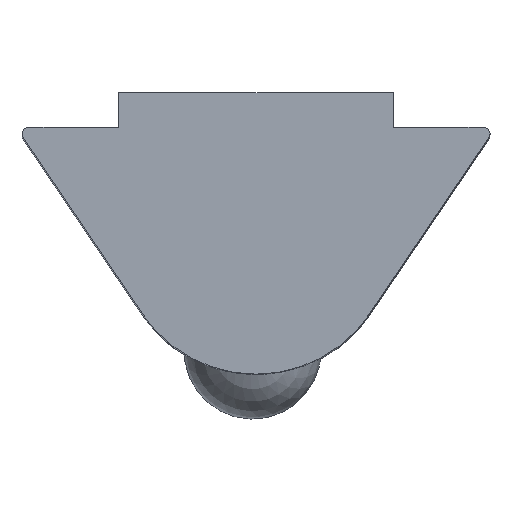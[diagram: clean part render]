
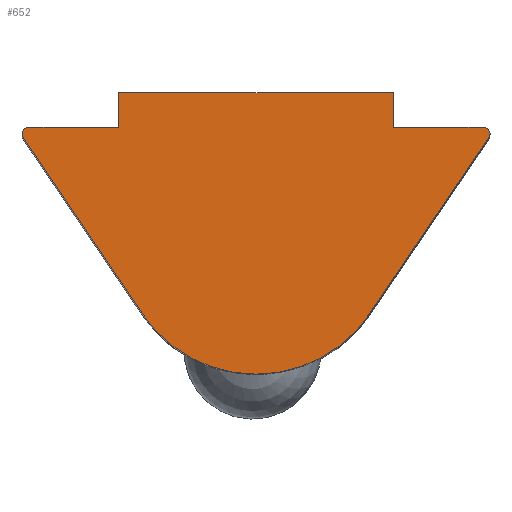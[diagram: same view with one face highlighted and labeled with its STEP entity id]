
A CAD part, top view. The second image highlights one B-rep face of the part: STEP entity #652.
In plain terms, the highlighted planar face has unit normal (0, 0, 1).
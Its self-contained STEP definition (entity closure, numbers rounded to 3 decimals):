
#202=CARTESIAN_POINT('',(13.788,-6.223,22.0));
#203=VERTEX_POINT('',#202);
#210=CARTESIAN_POINT('',(10.311,-11.355,22.0));
#211=VERTEX_POINT('',#210);
#212=CARTESIAN_POINT('',(13.788,-6.223,22.0));
#213=DIRECTION('',(-0.561,-0.828,0.0));
#214=VECTOR('',#213,6.199);
#215=LINE('',#212,#214);
#216=EDGE_CURVE('',#203,#211,#215,.T.);
#259=CARTESIAN_POINT('',(3.689,-11.355,22.0));
#260=VERTEX_POINT('',#259);
#261=CARTESIAN_POINT('',(7.,-9.111,22.0));
#262=DIRECTION('',(0.0,0.0,-1.));
#263=DIRECTION('',(-0.6,0.8,0.0));
#264=AXIS2_PLACEMENT_3D('',#261,#262,#263);
#265=CIRCLE('',#264,4.0);
#266=EDGE_CURVE('',#211,#260,#265,.T.);
#375=CARTESIAN_POINT('',(11.0,-4.911,22.0));
#376=VERTEX_POINT('',#375);
#383=CARTESIAN_POINT('',(11.0,-5.911,22.0));
#384=VERTEX_POINT('',#383);
#385=CARTESIAN_POINT('',(11.0,-4.911,22.0));
#386=DIRECTION('',(0.0,-1.0,0.0));
#387=VECTOR('',#386,1.);
#388=LINE('',#385,#387);
#389=EDGE_CURVE('',#376,#384,#388,.T.);
#413=CARTESIAN_POINT('',(3.,-4.911,22.0));
#414=VERTEX_POINT('',#413);
#421=CARTESIAN_POINT('',(3.,-4.911,22.0));
#422=DIRECTION('',(1.0,0.0,0.0));
#423=VECTOR('',#422,8.0);
#424=LINE('',#421,#423);
#425=EDGE_CURVE('',#414,#376,#424,.T.);
#447=CARTESIAN_POINT('',(3.,-5.911,22.0));
#448=VERTEX_POINT('',#447);
#455=CARTESIAN_POINT('',(3.,-5.911,22.0));
#456=DIRECTION('',(0.0,1.0,0.0));
#457=VECTOR('',#456,1.);
#458=LINE('',#455,#457);
#459=EDGE_CURVE('',#448,#414,#458,.T.);
#479=CARTESIAN_POINT('',(0.377,-5.911,22.0));
#480=VERTEX_POINT('',#479);
#487=CARTESIAN_POINT('',(0.377,-5.911,22.0));
#488=DIRECTION('',(1.0,0.0,0.0));
#489=VECTOR('',#488,2.623);
#490=LINE('',#487,#489);
#491=EDGE_CURVE('',#480,#448,#490,.T.);
#502=CARTESIAN_POINT('',(13.623,-5.911,22.0));
#503=VERTEX_POINT('',#502);
#504=CARTESIAN_POINT('',(11.0,-5.911,22.0));
#505=DIRECTION('',(1.0,0.0,0.0));
#506=VECTOR('',#505,2.623);
#507=LINE('',#504,#506);
#508=EDGE_CURVE('',#384,#503,#507,.T.);
#541=CARTESIAN_POINT('',(13.623,-6.111,22.0));
#542=DIRECTION('',(0.0,0.0,-1.));
#543=DIRECTION('',(0.883,0.469,0.0));
#544=AXIS2_PLACEMENT_3D('',#541,#542,#543);
#545=CIRCLE('',#544,0.2);
#546=EDGE_CURVE('',#503,#203,#545,.T.);
#596=CARTESIAN_POINT('',(0.212,-6.223,22.0));
#597=VERTEX_POINT('',#596);
#598=CARTESIAN_POINT('',(0.377,-6.111,22.0));
#599=DIRECTION('',(0.0,0.0,-1.0));
#600=DIRECTION('',(-0.883,0.469,0.0));
#601=AXIS2_PLACEMENT_3D('',#598,#599,#600);
#602=CIRCLE('',#601,0.2);
#603=EDGE_CURVE('',#597,#480,#602,.T.);
#623=CARTESIAN_POINT('',(3.689,-11.355,22.0));
#624=DIRECTION('',(-0.561,0.828,0.0));
#625=VECTOR('',#624,6.199);
#626=LINE('',#623,#625);
#627=EDGE_CURVE('',#260,#597,#626,.T.);
#635=CARTESIAN_POINT('',(11.451,-7.869,22.0));
#636=DIRECTION('',(0.0,0.0,1.0));
#637=DIRECTION('',(1.0,0.0,0.0));
#638=AXIS2_PLACEMENT_3D('',#635,#636,#637);
#639=PLANE('',#638);
#640=ORIENTED_EDGE('',*,*,#546,.F.);
#641=ORIENTED_EDGE('',*,*,#508,.F.);
#642=ORIENTED_EDGE('',*,*,#389,.F.);
#643=ORIENTED_EDGE('',*,*,#425,.F.);
#644=ORIENTED_EDGE('',*,*,#459,.F.);
#645=ORIENTED_EDGE('',*,*,#491,.F.);
#646=ORIENTED_EDGE('',*,*,#603,.F.);
#647=ORIENTED_EDGE('',*,*,#627,.F.);
#648=ORIENTED_EDGE('',*,*,#266,.F.);
#649=ORIENTED_EDGE('',*,*,#216,.F.);
#650=EDGE_LOOP('',(#640,#641,#642,#643,#644,#645,#646,#647,#648,#649));
#651=FACE_OUTER_BOUND('',#650,.T.);
#652=ADVANCED_FACE('',(#651),#639,.T.);
